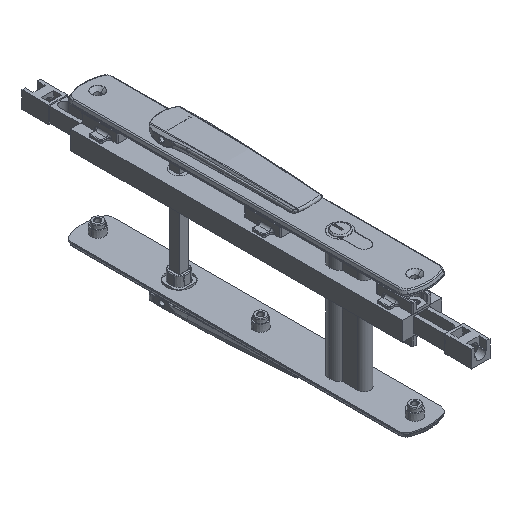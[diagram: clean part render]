
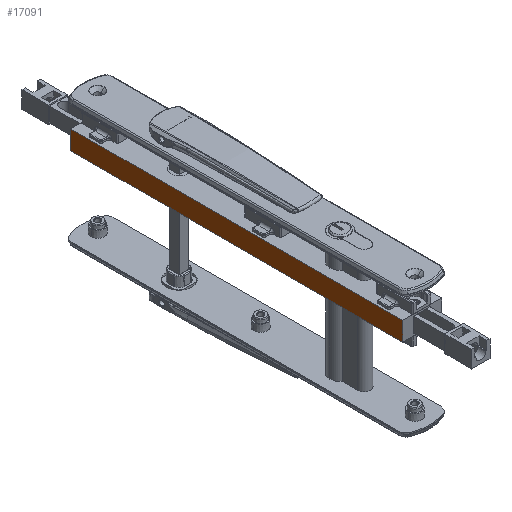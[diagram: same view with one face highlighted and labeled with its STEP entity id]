
A CAD part, isometric view. The second image highlights one B-rep face of the part: STEP entity #17091.
In plain terms, the highlighted planar face has unit normal (-1, 0, 0).
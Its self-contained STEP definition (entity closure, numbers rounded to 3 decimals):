
#3783 = DIRECTION ( 'NONE',  ( 0., 0., -1. ) ) ;
#4012 = VECTOR ( 'NONE', #12357, 1000. ) ;
#4852 = CARTESIAN_POINT ( 'NONE',  ( -16., 72.75, 7.75 ) ) ;
#5131 = LINE ( 'NONE', #31953, #18509 ) ;
#7025 = CARTESIAN_POINT ( 'NONE',  ( -16., 72.75, 7.75 ) ) ;
#7279 = VERTEX_POINT ( 'NONE', #39298 ) ;
#10981 = VECTOR ( 'NONE', #14807, 1000. ) ;
#12357 = DIRECTION ( 'NONE',  ( 0., -1., 0. ) ) ;
#12409 = CARTESIAN_POINT ( 'NONE',  ( -16., 72.75, 7.75 ) ) ;
#14807 = DIRECTION ( 'NONE',  ( 0., 0., -1. ) ) ;
#15304 = LINE ( 'NONE', #38896, #24046 ) ;
#17091 = ADVANCED_FACE ( 'NONE', ( #38984 ), #19655, .F. ) ;
#18509 = VECTOR ( 'NONE', #32951, 1000. ) ;
#19655 = PLANE ( 'NONE',  #20624 ) ;
#20581 = VERTEX_POINT ( 'NONE', #45220 ) ;
#20624 = AXIS2_PLACEMENT_3D ( 'NONE', #4852, #43536, #35455 ) ;
#22357 = VERTEX_POINT ( 'NONE', #12409 ) ;
#23210 = ORIENTED_EDGE ( 'NONE', *, *, #28745, .T. ) ;
#23511 = LINE ( 'NONE', #7025, #10981 ) ;
#24046 = VECTOR ( 'NONE', #3783, 1000. ) ;
#26509 = ORIENTED_EDGE ( 'NONE', *, *, #33489, .F. ) ;
#26552 = EDGE_CURVE ( 'NONE', #27241, #20581, #5131, .T. ) ;
#27241 = VERTEX_POINT ( 'NONE', #36843 ) ;
#27486 = ORIENTED_EDGE ( 'NONE', *, *, #26552, .T. ) ;
#28745 = EDGE_CURVE ( 'NONE', #22357, #27241, #23511, .T. ) ;
#31953 = CARTESIAN_POINT ( 'NONE',  ( -16., 72.75, -7.75 ) ) ;
#32243 = EDGE_LOOP ( 'NONE', ( #27486, #36472, #26509, #23210 ) ) ;
#32951 = DIRECTION ( 'NONE',  ( 0., -1., 0. ) ) ;
#33489 = EDGE_CURVE ( 'NONE', #22357, #7279, #34413, .T. ) ;
#34413 = LINE ( 'NONE', #34909, #4012 ) ;
#34909 = CARTESIAN_POINT ( 'NONE',  ( -16., 72.75, 7.75 ) ) ;
#35445 = EDGE_CURVE ( 'NONE', #7279, #20581, #15304, .T. ) ;
#35455 = DIRECTION ( 'NONE',  ( 0., 1., 0. ) ) ;
#36472 = ORIENTED_EDGE ( 'NONE', *, *, #35445, .F. ) ;
#36843 = CARTESIAN_POINT ( 'NONE',  ( -16., 72.75, -7.75 ) ) ;
#38896 = CARTESIAN_POINT ( 'NONE',  ( -16., -199.25, 7.75 ) ) ;
#38984 = FACE_OUTER_BOUND ( 'NONE', #32243, .T. ) ;
#39298 = CARTESIAN_POINT ( 'NONE',  ( -16., -199.25, 7.75 ) ) ;
#43536 = DIRECTION ( 'NONE',  ( 1., 0., 0. ) ) ;
#45220 = CARTESIAN_POINT ( 'NONE',  ( -16., -199.25, -7.75 ) ) ;
